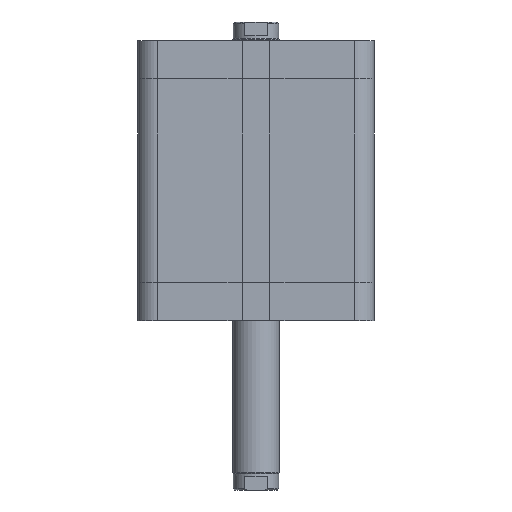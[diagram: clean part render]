
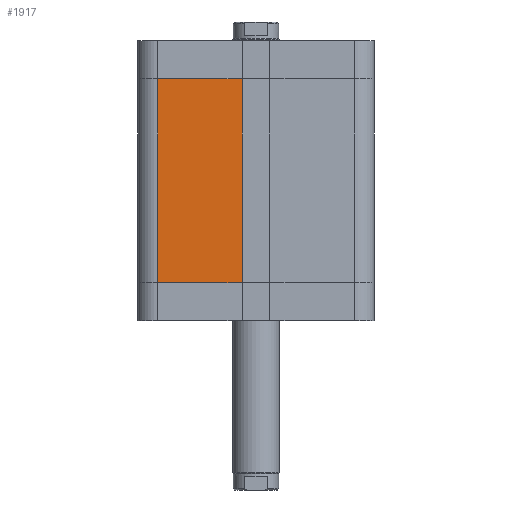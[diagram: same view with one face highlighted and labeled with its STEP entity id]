
A CAD part, front view. The second image highlights one B-rep face of the part: STEP entity #1917.
In plain terms, the highlighted planar face has unit normal (0, -1, 0).
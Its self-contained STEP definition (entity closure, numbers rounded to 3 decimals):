
#1828=CARTESIAN_POINT('',(-42.5,-51.,16.5));
#1829=VERTEX_POINT('',#1828);
#1837=CARTESIAN_POINT('',(-42.5,-51.,104.5));
#1838=VERTEX_POINT('',#1837);
#1839=CARTESIAN_POINT('',(-42.5,-51.,16.5));
#1840=DIRECTION('',(0.0,0.0,1.0));
#1841=VECTOR('',#1840,88.0);
#1842=LINE('',#1839,#1841);
#1843=EDGE_CURVE('',#1829,#1838,#1842,.T.);
#1887=CARTESIAN_POINT('',(-6.,-51.0,0.0));
#1888=DIRECTION('',(0.0,-1.0,0.0));
#1889=DIRECTION('',(0.0,0.0,-1.0));
#1890=AXIS2_PLACEMENT_3D('',#1887,#1888,#1889);
#1891=PLANE('',#1890);
#1892=CARTESIAN_POINT('',(-6.,-51.0,16.5));
#1893=VERTEX_POINT('',#1892);
#1894=CARTESIAN_POINT('',(-42.5,-51.,16.5));
#1895=DIRECTION('',(1.0,0.0,0.0));
#1896=VECTOR('',#1895,36.5);
#1897=LINE('',#1894,#1896);
#1898=EDGE_CURVE('',#1829,#1893,#1897,.T.);
#1899=ORIENTED_EDGE('',*,*,#1898,.T.);
#1900=CARTESIAN_POINT('',(-6.,-51.0,104.5));
#1901=VERTEX_POINT('',#1900);
#1902=CARTESIAN_POINT('',(-6.,-51.0,16.5));
#1903=DIRECTION('',(0.0,0.0,1.0));
#1904=VECTOR('',#1903,88.0);
#1905=LINE('',#1902,#1904);
#1906=EDGE_CURVE('',#1893,#1901,#1905,.T.);
#1907=ORIENTED_EDGE('',*,*,#1906,.T.);
#1908=CARTESIAN_POINT('',(-42.5,-51.,104.5));
#1909=DIRECTION('',(1.0,0.0,0.0));
#1910=VECTOR('',#1909,36.5);
#1911=LINE('',#1908,#1910);
#1912=EDGE_CURVE('',#1838,#1901,#1911,.T.);
#1913=ORIENTED_EDGE('',*,*,#1912,.F.);
#1914=ORIENTED_EDGE('',*,*,#1843,.F.);
#1915=EDGE_LOOP('',(#1899,#1907,#1913,#1914));
#1916=FACE_OUTER_BOUND('',#1915,.T.);
#1917=ADVANCED_FACE('',(#1916),#1891,.T.);
